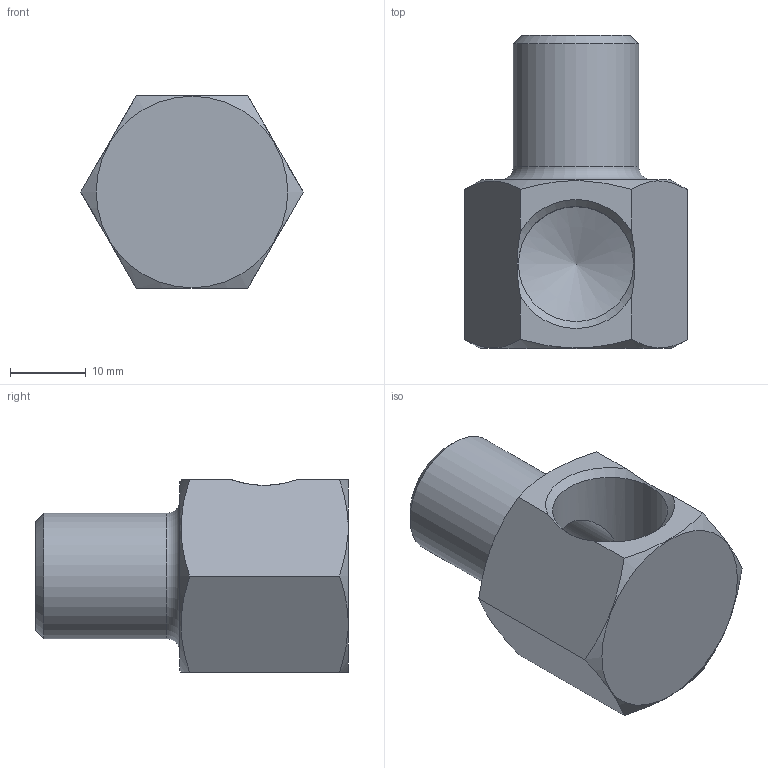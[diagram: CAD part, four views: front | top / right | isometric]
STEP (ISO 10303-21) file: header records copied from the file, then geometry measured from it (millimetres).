
FILE_DESCRIPTION(/* description */ (''),/* implementation_level */ '2;1');
FILE_NAME(/* name */ 'C:/Users/drich/Desktop/M38S-M38SB v1.step',/* time_stamp */ '2019-12-27T18:06:00-06:00',/* author */ (''),/* organization */ (''),/* preprocessor_version */ 'ST-DEVELOPER v18',/* originating_system */ 'Autodesk Translation Framework v8.12.0.6',/* authorisation */ '');
FILE_SCHEMA (('AUTOMOTIVE_DESIGN { 1 0 10303 214 3 1 1 }'));
Length unit declared in the file: inch
Products named in the file (1): M38S-M38SB
Bounding box: 29.33 x 41.27 x 25.4 mm (x, y, z)
Volume: 10242.1 mm3; surface area: 5470.6 mm2
Topology: 1 solids, 1 shells, 20 faces, 53 edges, 35 vertices
Faces by surface type: plane 10, cone 6, cylinder 3, torus 1
Full cylindrical faces by diameter (mm): 11.887 x1, 15.173 x1, 16.537 x1
Entity records: 687 total; most frequent: CARTESIAN_POINT 184, ORIENTED_EDGE 104, DIRECTION 91, EDGE_CURVE 52, AXIS2_PLACEMENT_3D 37, VERTEX_POINT 35, EDGE_LOOP 23, FACE_OUTER_BOUND 20
